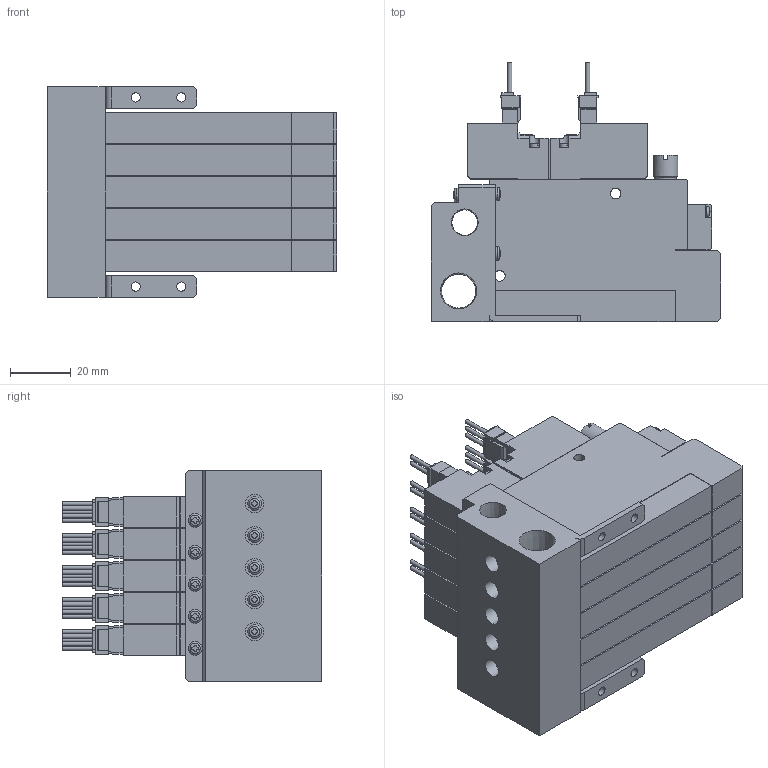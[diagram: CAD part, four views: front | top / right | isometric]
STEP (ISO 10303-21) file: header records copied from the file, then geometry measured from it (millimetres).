
FILE_DESCRIPTION(('STEP AP203'),'1');
FILE_NAME('ZZC5WC505_3D.stp','2024-09-04T22:39:32',(' '),(' '),'Spatial InterOp 3D',' ',' ');
FILE_SCHEMA(('CONFIG_CONTROL_DESIGN'));
Length unit declared in the file: millimetre
Products named in the file (5): BSC1M※※ZZC5WC505; Solenoid valve W; Pressure Sensor ZZ; Unit-C; BaseMC50R
Assembly tree (16 placements, depth 2):
  BSC1M※※ZZC5WC505
    Solenoid valve W  x5
    Pressure Sensor ZZ  x5
    Unit-C  x5
    BaseMC50R
Bounding box: 95 x 85.05 x 69 mm (x, y, z)
Volume: 267027.3 mm3; surface area: 93190.3 mm2
Topology: 16 solids, 16 shells, 1817 faces, 4866 edges, 3220 vertices
Faces by surface type: plane 1387, cylinder 343, cone 39, sphere 24, torus 24
Full cylindrical faces by diameter (mm): 1.4 x25, 2.5 x10, 3 x24, 3.5 x30, 4 x5, 4.134 x10, 4.5 x14, 5.5 x5, 6 x5, 7 x10, 8 x5, 8.422 x1, 11.233 x1
Entity records: 18200 total; most frequent: CARTESIAN_POINT 4129, DIRECTION 2825, ORIENTED_EDGE 2698, EDGE_CURVE 1349, AXIS2_PLACEMENT_3D 961, VERTEX_POINT 956, LINE 903, VECTOR 903
